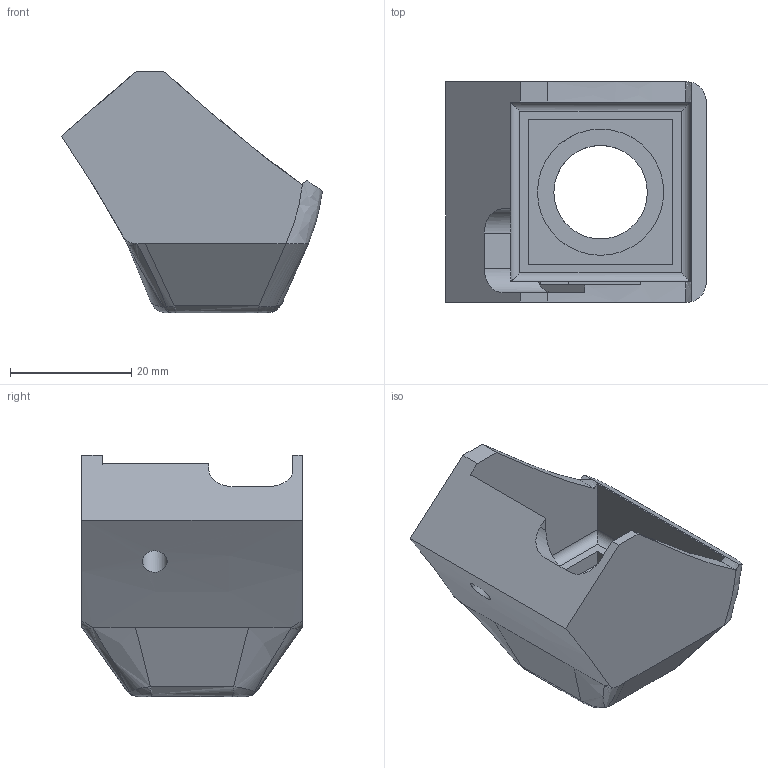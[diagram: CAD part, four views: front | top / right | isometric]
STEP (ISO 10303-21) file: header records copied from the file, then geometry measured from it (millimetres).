
FILE_DESCRIPTION(('FreeCAD Model'),'2;1');
FILE_NAME('Open CASCADE Shape Model','2025-04-04T15:50:42',(''),(''), 'Open CASCADE STEP processor 7.6','FreeCAD','Unknown');
FILE_SCHEMA(('AUTOMOTIVE_DESIGN { 1 0 10303 214 1 1 1 1 }'));
Length unit declared in the file: millimetre
Products named in the file (1): FVCv3
Bounding box: 42.96 x 36.3 x 39.8 mm (x, y, z)
Volume: 13606.8 mm3; surface area: 8650.4 mm2
Topology: 1 solids, 1 shells, 74 faces, 185 edges, 113 vertices
Faces by surface type: bspline 32, plane 24, extrusion 9, cylinder 9
Full cylindrical faces by diameter (mm): 4.1 x1, 15.4 x1, 20.8 x1
Entity records: 6408 total; most frequent: CARTESIAN_POINT 4802, ORIENTED_EDGE 366, EDGE_CURVE 183, DIRECTION 162, VERTEX_POINT 113, FACE_BOUND 80, EDGE_LOOP 80, B_SPLINE_CURVE_WITH_KNOTS 79
